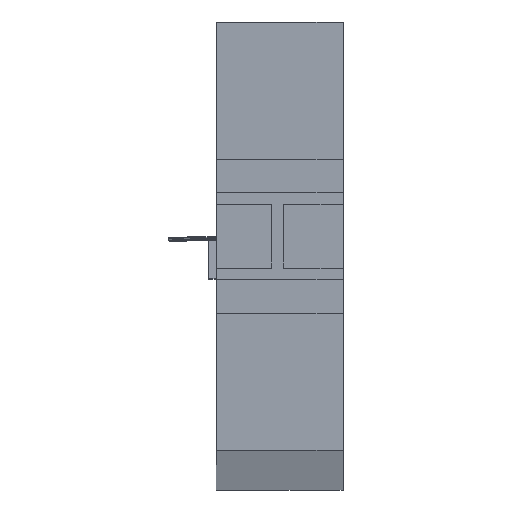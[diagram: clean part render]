
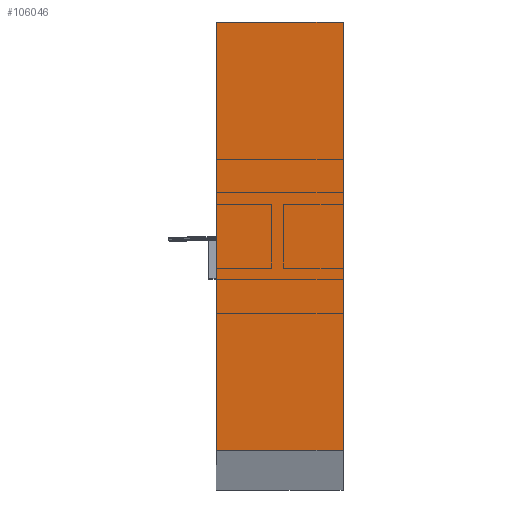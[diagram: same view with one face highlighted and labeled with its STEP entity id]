
A CAD part, left-side view. The second image highlights one B-rep face of the part: STEP entity #106046.
In plain terms, the highlighted planar face has unit normal (-0.999, 0, -0.034).
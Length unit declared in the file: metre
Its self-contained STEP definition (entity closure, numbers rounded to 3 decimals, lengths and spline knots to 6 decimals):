
#366 = PLANE ( 'NONE',  #95511 ) ;
#367 = CARTESIAN_POINT ( 'NONE',  ( -32.123686, 0.4, 0.63694 ) ) ;
#378 = DIRECTION ( 'NONE',  ( 0.999, 0., 0.034 ) ) ;
#380 = DIRECTION ( 'NONE',  ( 0.034, 0., -0.999 ) ) ;
#8376 = CARTESIAN_POINT ( 'NONE',  ( -32.123686, 0.4, 0.63694 ) ) ;
#8383 = DIRECTION ( 'NONE',  ( 0., -1., 0. ) ) ;
#8585 = CARTESIAN_POINT ( 'NONE',  ( -31.759321, 0.4, -10.176923 ) ) ;
#8591 = DIRECTION ( 'NONE',  ( 0., -1., 0. ) ) ;
#10344 = EDGE_CURVE ( 'NONE', #15900, #15855, #11142, .T. ) ;
#10392 = EDGE_CURVE ( 'NONE', #15899, #15860, #11192, .T. ) ;
#11142 = LINE ( 'NONE', #8376, #11145 ) ;
#11145 = VECTOR ( 'NONE', #8383, 1. ) ;
#11192 = LINE ( 'NONE', #8585, #11195 ) ;
#11195 = VECTOR ( 'NONE', #8591, 1. ) ;
#15345 = CARTESIAN_POINT ( 'NONE',  ( -32.123686, 0., 0.63694 ) ) ;
#15355 = CARTESIAN_POINT ( 'NONE',  ( -31.759321, 0., -10.176923 ) ) ;
#15404 = CARTESIAN_POINT ( 'NONE',  ( -31.759321, 3.2, -10.176923 ) ) ;
#15405 = CARTESIAN_POINT ( 'NONE',  ( -32.123686, 3.2, 0.63694 ) ) ;
#15855 = VERTEX_POINT ( 'NONE', #15345 ) ;
#15860 = VERTEX_POINT ( 'NONE', #15355 ) ;
#15899 = VERTEX_POINT ( 'NONE', #15404 ) ;
#15900 = VERTEX_POINT ( 'NONE', #15405 ) ;
#20630 = EDGE_CURVE ( 'NONE', #15860, #15855, #22643, .T. ) ;
#20710 = EDGE_CURVE ( 'NONE', #15899, #15900, #22790, .T. ) ;
#22643 = LINE ( 'NONE', #25651, #22649 ) ;
#22649 = VECTOR ( 'NONE', #25655, 1. ) ;
#22790 = LINE ( 'NONE', #25946, #22795 ) ;
#22795 = VECTOR ( 'NONE', #25949, 1. ) ;
#25651 = CARTESIAN_POINT ( 'NONE',  ( -32.123686, 0., 0.63694 ) ) ;
#25655 = DIRECTION ( 'NONE',  ( -0.034, 0., 0.999 ) ) ;
#25946 = CARTESIAN_POINT ( 'NONE',  ( -31.759321, 3.2, -10.176923 ) ) ;
#25949 = DIRECTION ( 'NONE',  ( -0.034, 0., 0.999 ) ) ;
#59239 = ORIENTED_EDGE ( 'NONE', *, *, #10344, .F. ) ;
#59240 = ORIENTED_EDGE ( 'NONE', *, *, #20710, .F. ) ;
#59241 = ORIENTED_EDGE ( 'NONE', *, *, #10392, .T. ) ;
#59242 = ORIENTED_EDGE ( 'NONE', *, *, #20630, .T. ) ;
#95511 = AXIS2_PLACEMENT_3D ( 'NONE', #367, #378, #380 ) ;
#106046 = ADVANCED_FACE ( 'NONE', ( #115534 ), #366, .F. ) ;
#115468 = EDGE_LOOP ( 'NONE', ( #59239, #59240, #59241, #59242 ) ) ;
#115534 = FACE_OUTER_BOUND ( 'NONE', #115468, .T. ) ;
